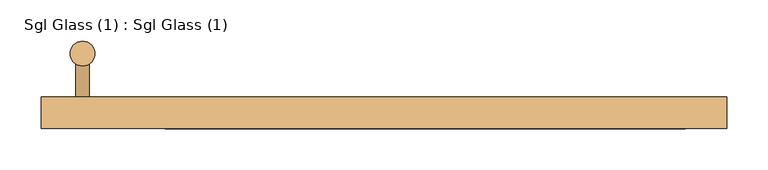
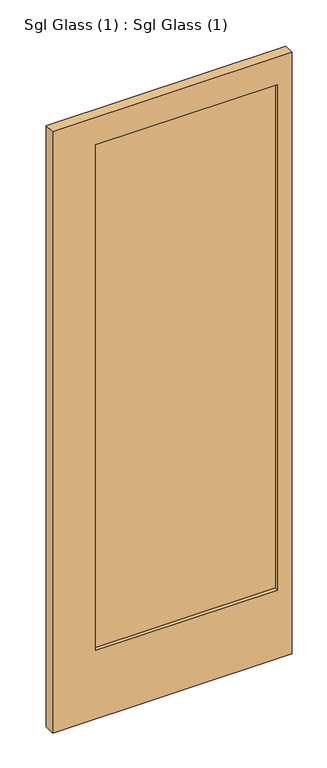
"""IFC4 building model written with IfcOpenShell, lengths in millimetres: door geometry, Sgl Glass (1) : Sgl Glass (1)."""

from ifc_helpers import new_model, si_unit, point, frame, frame_2d, origin, place, context, project, spatial, polyline, circle_curve, trimmed, segment, composite_curve, outline, extrude, source, transform, mapped, element, save


def sgl_glass_1_sgl_glass_1_31c06ee3(model_context):
    return source(origin(), model_context, "Body", "SweptSolid", [
        extrude(outline(polyline([(365.0, -2.0), (365.0, -12.0), (-340.0, -12.0), (-340.0, -2.0), (365.0, -2.0)])), frame((0.0, 0.0, 250.0), z_axis=(0.0, 0.0, 1.0), x_axis=(1.0, 0.0, 0.0)), (0.0, 0.0, 1.0), 1850.0),
        extrude(outline(composite_curve([segment(trimmed(circle_curve(frame_2d((-365.0, 66.0)), 15.0), [point((-365.0, 51.0))], [point((-365.0, 81.0))], False, "CARTESIAN"), True, "CONTINUOUS"), segment(trimmed(circle_curve(frame_2d((-365.0, 66.0)), 15.0), [point((-365.0, 81.0))], [point((-365.0, 51.0))], False, "CARTESIAN"), True, "CONTINUOUS")], self_intersect=False)), frame((0.0, 0.0, 650.0), z_axis=(0.0, 0.0, 1.0), x_axis=(1.0, 0.0, 0.0)), (0.0, 0.0, 1.0), 900.0),
        extrude(outline(composite_curve([segment(trimmed(circle_curve(frame_2d((750.0, -365.0)), 8.0), [point((750.0, -357.0))], [point((750.0, -373.0))], False, "CARTESIAN"), True, "CONTINUOUS"), segment(trimmed(circle_curve(frame_2d((750.0, -365.0)), 8.0), [point((750.0, -373.0))], [point((750.0, -357.0))], False, "CARTESIAN"), True, "CONTINUOUS")], self_intersect=False)), frame((0.0, 13.0, 0.0), z_axis=(0.0, 1.0, 0.0), x_axis=(0.0, 0.0, 1.0)), (0.0, 0.0, 1.0), 53.0),
        extrude(outline(composite_curve([segment(trimmed(circle_curve(frame_2d((1450.0, -365.0)), 8.0), [point((1450.0, -357.0))], [point((1450.0, -373.0))], False, "CARTESIAN"), True, "CONTINUOUS"), segment(trimmed(circle_curve(frame_2d((1450.0, -365.0)), 8.0), [point((1450.0, -373.0))], [point((1450.0, -357.0))], False, "CARTESIAN"), True, "CONTINUOUS")], self_intersect=False)), frame((0.0, 13.0, 0.0), z_axis=(0.0, 1.0, 0.0), x_axis=(0.0, 0.0, 1.0)), (0.0, 0.0, 1.0), 53.0),
        extrude(outline(polyline([(0.0, -415.0), (0.0, 415.0), (2200.0, 415.0), (2200.0, -415.0), (0.0, -415.0)]), holes=[polyline([(2100.0, 365.0), (250.0, 365.0), (250.0, -265.0), (2100.0, -265.0), (2100.0, 365.0)])]), frame((0.0, -25.0, 0.0), z_axis=(0.0, 1.0, 0.0), x_axis=(0.0, 0.0, 1.0)), (0.0, 0.0, 1.0), 38.0),
    ])


if __name__ == "__main__":
    model = new_model("IFC4")
    model_context = context("Model", 3, world=origin())
    ifc_project = project(units=[si_unit("LENGTHUNIT", "METRE", prefix="MILLI")], contexts=[model_context])
    site = spatial("IfcSite", under=ifc_project)
    building = spatial("IfcBuilding", under=site)
    placement = place(None, origin())
    sgl_glass_1_sgl_glass_1_shape = sgl_glass_1_sgl_glass_1_31c06ee3(model_context)
    element("IfcDoor", 1, ObjectType="Sgl Glass (1) : Sgl Glass (1)", at=placement, inside=building, context=model_context, shape_type="MappedRepresentation", body=[
        mapped(sgl_glass_1_sgl_glass_1_shape, transform((0.0, 0.0, 0.0), x_axis=(1.0, 0.0, 0.0), y_axis=(0.0, 1.0, 0.0), z_axis=(0.0, 0.0, 1.0))),
    ])
    save(model, "model.ifc")
